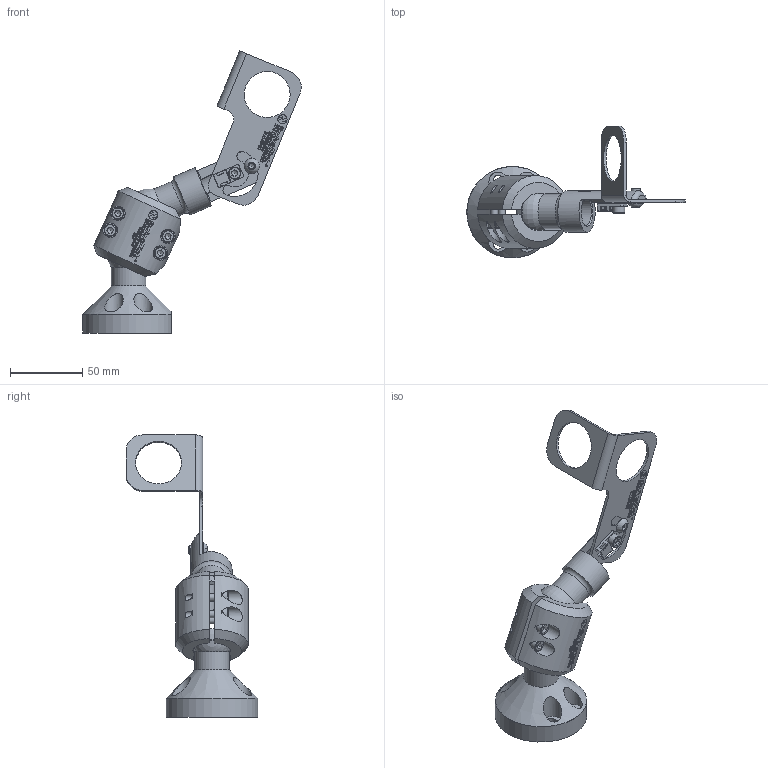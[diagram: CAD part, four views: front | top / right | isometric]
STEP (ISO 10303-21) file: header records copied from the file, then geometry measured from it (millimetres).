
FILE_DESCRIPTION (( 'STEP AP203' ), '1' );
FILE_NAME ('SLM-1000-SBKIT-30.STEP', '2020-06-02T13:11:38', ( '' ), ( '' ), 'SwSTEP 2.0', 'SolidWorks 2020', '' );
FILE_SCHEMA (( 'CONFIG_CONTROL_DESIGN' ));
Length unit declared in the file: inch
Products named in the file (10): M6-1 x 10mm, Button Head, Black Oxide_MBHCS-86340-BO; SLM-SBH; SLM-1; SLM-2; 07281137; M5-0.8 x 8mm, Socket Head, Black Oxide_MSHCS-39543-BO; MSHCS-39547-BO_MSHCS-39547-BO; SLM-SB-30; SLM-2_Swivellink Etching; SLM-1000-SBKIT-30
Assembly tree (12 placements, depth 3):
  SLM-1000-SBKIT-30
    SLM-1
    SLM-2
      SLM-2_Swivellink Etching
      MSHCS-39547-BO_MSHCS-39547-BO  x4
    SLM-SBH
    SLM-SB-30
    07281137
    M6-1 x 10mm, Button Head, Black Oxide_MBHCS-86340-BO
    M5-0.8 x 8mm, Socket Head, Black Oxide_MSHCS-39543-BO
Bounding box: 150.78 x 90.64 x 194.78 mm (x, y, z)
Volume: 85422.8 mm3; surface area: 57736.3 mm2
Topology: 11 solids, 13 shells, 535 faces, 3825 edges, 3521 vertices
Faces by surface type: plane 239, cylinder 238, cone 28, torus 15, sphere 11, bspline 4
Full cylindrical faces by diameter (mm): 4.2 x5, 5 x6, 5.08 x1, 5.8 x4, 6 x1, 7.144 x1, 8.5 x5, 10 x4, 10.5 x1, 12.7 x4, 19.05 x1, 20.638 x1, 23.812 x2, 28.499 x1, 31.75 x2
Entity records: 43533 total; most frequent: CARTESIAN_POINT 15636, ORIENTED_EDGE 7166, DIRECTION 3785, EDGE_CURVE 3585, VERTEX_POINT 3407, VECTOR 1625, LINE 1625, B_SPLINE_CURVE_WITH_KNOTS 1353
